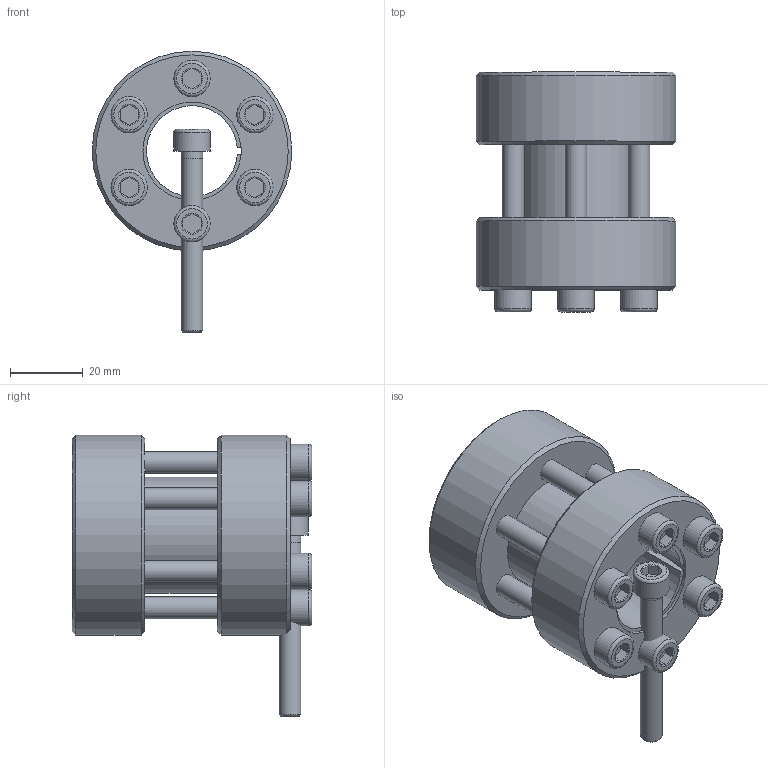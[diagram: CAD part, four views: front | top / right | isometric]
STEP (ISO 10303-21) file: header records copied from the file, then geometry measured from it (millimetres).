
FILE_DESCRIPTION( ( 'Unknown' ), '1' );
FILE_NAME( 'C:/Dokumente und Einstellungen/Sven/Desktop/homepage/cad - homepage/KBS95/KBS 95 - 25 x 55.stp', 'Unknown', ( 'Unknown' ), ( 'Unknown' ), 'XStep 1.0', 'Unknown', ' ' );
FILE_SCHEMA( ( 'automotive_design' ) );
Length unit declared in the file: millimetre
Products named in the file (3): Assem1; KBS 95 - 25 x 55; ISO EN DIN 4762 M6x50
Bounding box: 55 x 66 x 77.5 mm (x, y, z)
Volume: 160788.2 mm3; surface area: 57866.2 mm2
Topology: 9 solids, 9 shells, 239 faces, 499 edges, 306 vertices
Faces by surface type: plane 104, cone 61, cylinder 60, torus 14
Full cylindrical faces by diameter (mm): 5 x7, 6 x38, 10 x7, 55 x4
Entity records: 1850 total; most frequent: CARTESIAN_POINT 317, DIRECTION 280, ORIENTED_EDGE 206, AXIS2_PLACEMENT_3D 122, EDGE_LOOP 114, EDGE_CURVE 103, VERTEX_POINT 79, FACE_OUTER_BOUND 77
